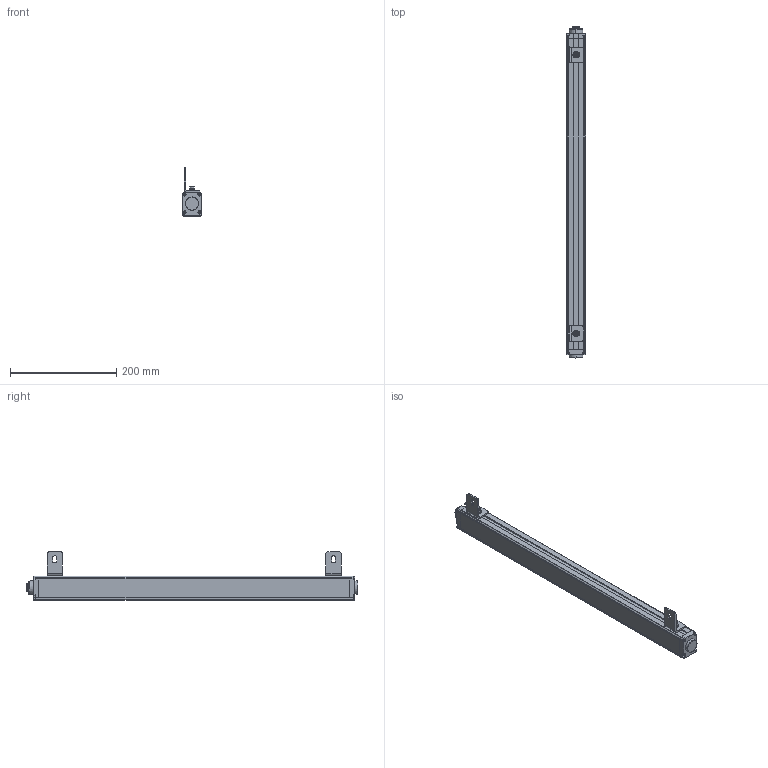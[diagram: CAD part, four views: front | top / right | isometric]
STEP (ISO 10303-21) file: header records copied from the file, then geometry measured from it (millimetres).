
FILE_DESCRIPTION((''),'2;1');
FILE_NAME('ESCL-00_ASM','2021-07-17T11:05:32',('18720616900'),(''),'CREO PARAMETRIC BY PTC INC, 2019010','CREO PARAMETRIC BY PTC INC, 2019010','');
FILE_SCHEMA(('CONFIG_CONTROL_DESIGN'));
Products named in the file (12): ESCL-00; ESCL-3-SOLID1000; ESCL-4-SOLID1000; HKCT1_-4-SOLID1; L10001; M6-8--0001; M6-1--00; M6-1-00; 00; M6-80001_ASM; L1--0001_ASM; ESCL-00_ASM
Assembly tree (12 placements, depth 4):
  ESCL-00_ASM
    ESCL-00
    ESCL-3-SOLID1000
    ESCL-4-SOLID1000
    HKCT1_-4-SOLID1
    L1--0001_ASM  x2
      L10001
      M6-80001_ASM
        M6-8--0001
        M6-1--00
        M6-1-00
        00
Bounding box: 36.1 x 625.1 x 91.11 mm (x, y, z)
Volume: 889649.2 mm3; surface area: 142796.2 mm2
Topology: 14 solids, 14 shells, 625 faces, 1645 edges, 1070 vertices
Faces by surface type: plane 226, cylinder 208, cone 78, bspline 66, torus 47
Entity records: 76177 total; most frequent: CARTESIAN_POINT 63991, ORIENTED_EDGE 2664, DIRECTION 2275, EDGE_CURVE 1332, VERTEX_POINT 872, AXIS2_PLACEMENT_3D 816, VECTOR 643, LINE 643
